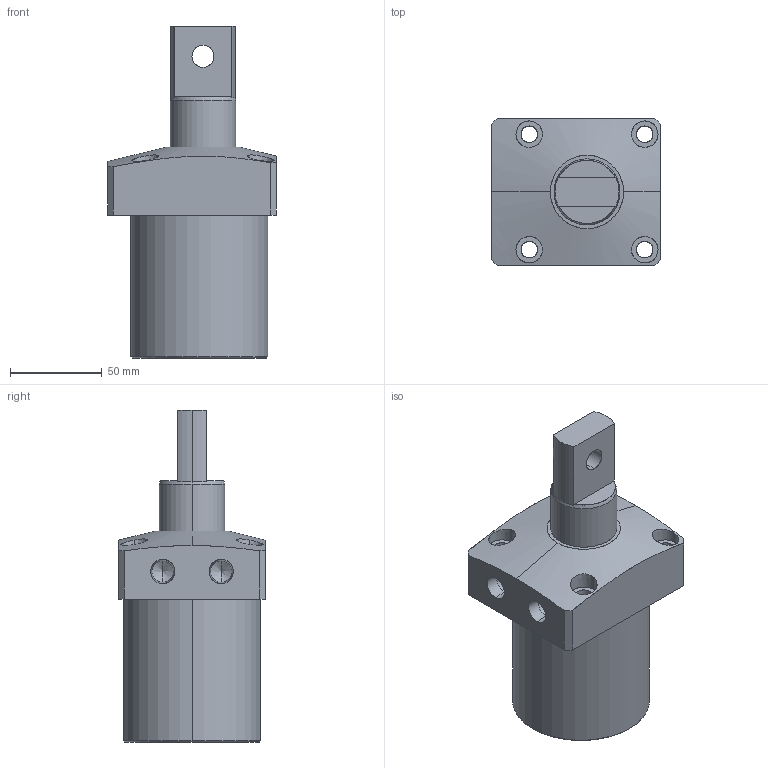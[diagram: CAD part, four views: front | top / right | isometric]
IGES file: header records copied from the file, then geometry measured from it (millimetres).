
Start section: SolidWorks IGES file using analytic representation for surfaces
Global section: file name: E:\ALL SSVT IGS MODEL\ALL-SWING-IGS\SWING-75\SC02-751-752-RH-LH-TOP-PTYPE\SC02-752-LP-TOP-PTYPE.IGS; native system: SolidWorks 2019; preprocessor: SolidWorks 2019; author: SSVT; date: 210823.121526; units: millimetre
Bounding box: 92 x 80 x 181.14 mm (x, y, z)
Surface area: 73703.8 mm2 (no closed solid volume)
Topology: 0 solids, 0 shells, 73 faces, 1679 edges, 1675 vertices
Faces by surface type: revolution 49, bspline 24
